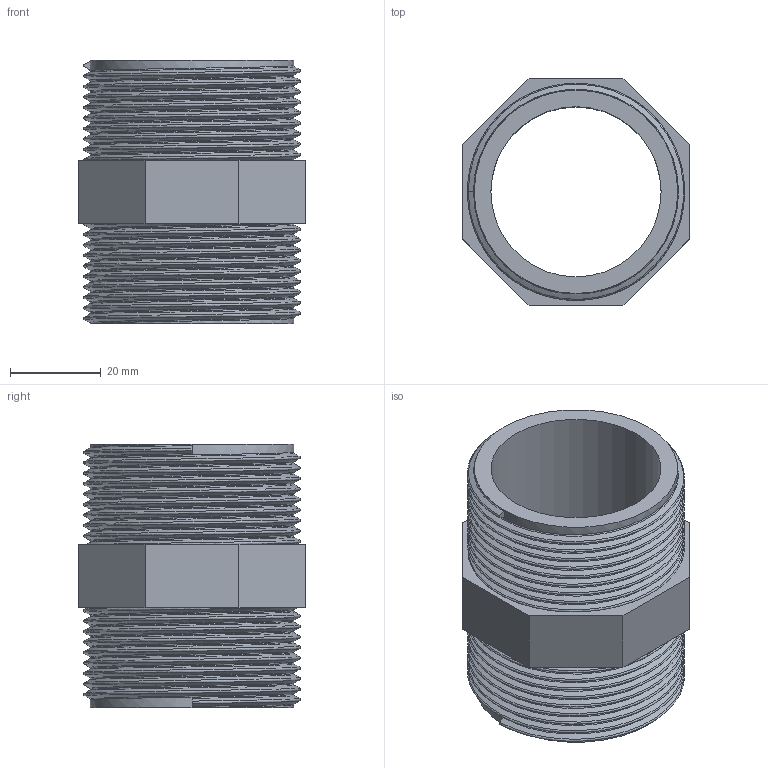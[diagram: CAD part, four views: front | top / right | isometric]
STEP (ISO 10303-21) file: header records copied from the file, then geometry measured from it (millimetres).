
FILE_DESCRIPTION(/* description */ ('PVC-U nipplo filettato BSP'),/* implementation_level */ '2;1');
FILE_NAME(/* name */ 'C:\Users\POLYPIPE\Desktop\DATASET INVENTOR\LIBRERIA EFFAST\RACCORDI 3DxWEB\RER\3D_RERNIE\3D_RERNIE050F.stp',/* time_stamp */ '2018-01-19T16:43:14+01:00',/* author */ ('POLYPIPE'),/* organization */ ('Polypipe Italia s.r.l.'),/* preprocessor_version */ 'ST-DEVELOPER v16.1',/* originating_system */ 'Autodesk Inventor 2016',/* authorisation */ '');
FILE_SCHEMA (('CONFIG_CONTROL_DESIGN'));
Length unit declared in the file: millimetre
Products named in the file (1): 3D_RERNIE
Bounding box: 50 x 50 x 58 mm (x, y, z)
Volume: 38890.8 mm3; surface area: 21577.3 mm2
Topology: 1 solids, 1 shells, 27 faces, 63 edges, 40 vertices
Faces by surface type: plane 14, bspline 10, cylinder 3
Full cylindrical faces by diameter (mm): 37.5 x1, 44.845 x2
Entity records: 7880 total; most frequent: CARTESIAN_POINT 7302, ORIENTED_EDGE 124, DIRECTION 86, EDGE_CURVE 62, VERTEX_POINT 40, EDGE_LOOP 32, LINE 30, VECTOR 30
